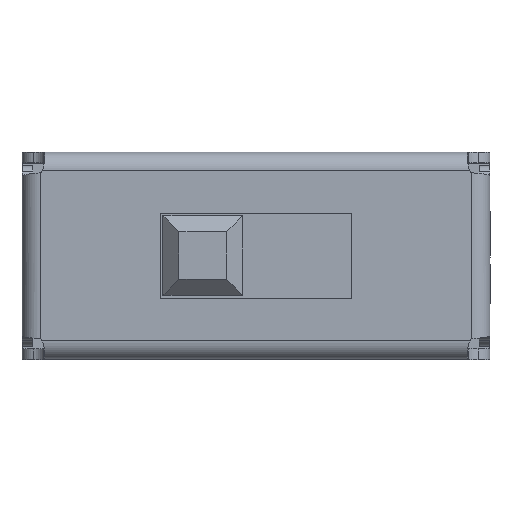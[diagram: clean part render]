
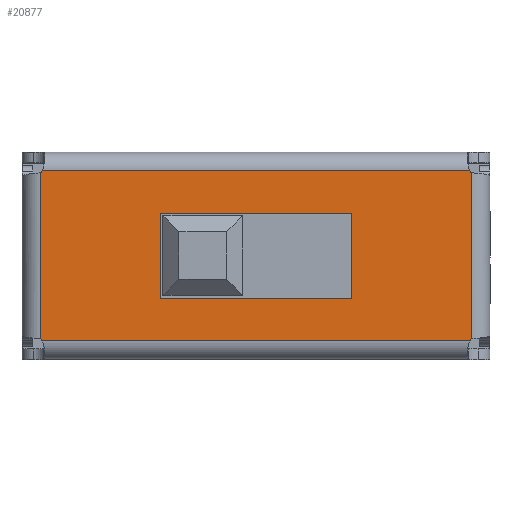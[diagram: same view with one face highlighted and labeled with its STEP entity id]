
A CAD part, top view. The second image highlights one B-rep face of the part: STEP entity #20877.
In plain terms, the highlighted planar face has unit normal (0, 0, 1).
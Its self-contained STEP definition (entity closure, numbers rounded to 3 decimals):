
#177 = DIRECTION ( 'NONE',  ( 0., -1., 0. ) ) ;
#464 = CARTESIAN_POINT ( 'NONE',  ( 4.257, -1.781, 3.5 ) ) ;
#907 = ORIENTED_EDGE ( 'NONE', *, *, #18723, .F. ) ;
#928 = EDGE_CURVE ( 'NONE', #21703, #17480, #18245, .T. ) ;
#1054 = CARTESIAN_POINT ( 'NONE',  ( 4.05, -1.564, 3.5 ) ) ;
#1089 = DIRECTION ( 'NONE',  ( -1., 0., 0. ) ) ;
#1325 = CARTESIAN_POINT ( 'NONE',  ( -4.017, 1.6, 3.5 ) ) ;
#1509 = DIRECTION ( 'NONE',  ( 0., 0., -1. ) ) ;
#1510 = CIRCLE ( 'NONE', #2270, 0.3 ) ;
#1568 = PLANE ( 'NONE',  #4758 ) ;
#1768 = DIRECTION ( 'NONE',  ( 0., 1., 0. ) ) ;
#1792 = CARTESIAN_POINT ( 'NONE',  ( -4.017, -1.6, 3.5 ) ) ;
#2203 = CARTESIAN_POINT ( 'NONE',  ( -4.05, 5.58, 3.5 ) ) ;
#2235 = ORIENTED_EDGE ( 'NONE', *, *, #13999, .F. ) ;
#2266 = ORIENTED_EDGE ( 'NONE', *, *, #16508, .T. ) ;
#2270 = AXIS2_PLACEMENT_3D ( 'NONE', #14169, #12260, #1089 ) ;
#2368 = CARTESIAN_POINT ( 'NONE',  ( -1.8, 1.6, 3.5 ) ) ;
#2623 = LINE ( 'NONE', #11877, #11916 ) ;
#2874 = VECTOR ( 'NONE', #18473, 1000. ) ;
#3005 = EDGE_CURVE ( 'NONE', #17328, #20729, #3747, .T. ) ;
#3075 = ORIENTED_EDGE ( 'NONE', *, *, #3005, .T. ) ;
#3168 = VECTOR ( 'NONE', #9368, 1000. ) ;
#3344 = FACE_BOUND ( 'NONE', #18348, .T. ) ;
#3747 = LINE ( 'NONE', #14575, #20077 ) ;
#3833 = VERTEX_POINT ( 'NONE', #16565 ) ;
#3998 = DIRECTION ( 'NONE',  ( 0., 0., -1. ) ) ;
#4065 = CARTESIAN_POINT ( 'NONE',  ( -1.8, -0.8, 3.5 ) ) ;
#4758 = AXIS2_PLACEMENT_3D ( 'NONE', #13394, #3998, #18678 ) ;
#4908 = VERTEX_POINT ( 'NONE', #11597 ) ;
#5464 = LINE ( 'NONE', #15075, #14635 ) ;
#5538 = VECTOR ( 'NONE', #1768, 1000. ) ;
#5620 = VERTEX_POINT ( 'NONE', #7384 ) ;
#6304 = CIRCLE ( 'NONE', #19437, 0.3 ) ;
#6502 = EDGE_CURVE ( 'NONE', #17304, #17328, #14600, .T. ) ;
#6681 = EDGE_CURVE ( 'NONE', #17480, #4908, #12780, .T. ) ;
#7338 = VECTOR ( 'NONE', #177, 1000. ) ;
#7384 = CARTESIAN_POINT ( 'NONE',  ( 1.8, 0.8, 3.5 ) ) ;
#7615 = DIRECTION ( 'NONE',  ( 0., 0., -1. ) ) ;
#7728 = EDGE_CURVE ( 'NONE', #16697, #17304, #2623, .T. ) ;
#8178 = ORIENTED_EDGE ( 'NONE', *, *, #6681, .F. ) ;
#8513 = ORIENTED_EDGE ( 'NONE', *, *, #928, .F. ) ;
#8568 = CARTESIAN_POINT ( 'NONE',  ( -4.257, 1.781, 3.5 ) ) ;
#9072 = CIRCLE ( 'NONE', #15113, 0.3 ) ;
#9210 = CARTESIAN_POINT ( 'NONE',  ( 4.05, 1.564, 3.5 ) ) ;
#9368 = DIRECTION ( 'NONE',  ( 0., 1., 0. ) ) ;
#9410 = CARTESIAN_POINT ( 'NONE',  ( -1.8, 0.8, 3.5 ) ) ;
#10502 = FACE_OUTER_BOUND ( 'NONE', #18213, .T. ) ;
#10691 = LINE ( 'NONE', #10822, #5538 ) ;
#10822 = CARTESIAN_POINT ( 'NONE',  ( 1.8, 0.8, 3.5 ) ) ;
#11597 = CARTESIAN_POINT ( 'NONE',  ( 1.8, -0.8, 3.5 ) ) ;
#11621 = ORIENTED_EDGE ( 'NONE', *, *, #20058, .F. ) ;
#11697 = VERTEX_POINT ( 'NONE', #11900 ) ;
#11877 = CARTESIAN_POINT ( 'NONE',  ( -1.8, -1.6, 3.5 ) ) ;
#11900 = CARTESIAN_POINT ( 'NONE',  ( 4.017, 1.6, 3.5 ) ) ;
#11916 = VECTOR ( 'NONE', #19043, 1000. ) ;
#12260 = DIRECTION ( 'NONE',  ( 0., 0., -1. ) ) ;
#12522 = DIRECTION ( 'NONE',  ( 0., 0., -1. ) ) ;
#12780 = LINE ( 'NONE', #4065, #13089 ) ;
#13065 = VERTEX_POINT ( 'NONE', #14142 ) ;
#13089 = VECTOR ( 'NONE', #14567, 1000. ) ;
#13196 = LINE ( 'NONE', #2368, #2874 ) ;
#13284 = DIRECTION ( 'NONE',  ( -1., 0., 0. ) ) ;
#13394 = CARTESIAN_POINT ( 'NONE',  ( -1.8, 5.58, 3.5 ) ) ;
#13467 = EDGE_CURVE ( 'NONE', #21365, #13065, #6304, .T. ) ;
#13547 = CARTESIAN_POINT ( 'NONE',  ( 4.017, -1.6, 3.5 ) ) ;
#13992 = DIRECTION ( 'NONE',  ( 1., 0., 0. ) ) ;
#13999 = EDGE_CURVE ( 'NONE', #5620, #21703, #5464, .T. ) ;
#14142 = CARTESIAN_POINT ( 'NONE',  ( -4.05, 1.564, 3.5 ) ) ;
#14169 = CARTESIAN_POINT ( 'NONE',  ( 4.257, 1.781, 3.5 ) ) ;
#14493 = CARTESIAN_POINT ( 'NONE',  ( -1.8, -0.8, 3.5 ) ) ;
#14567 = DIRECTION ( 'NONE',  ( 1., 0., 0. ) ) ;
#14575 = CARTESIAN_POINT ( 'NONE',  ( 4.05, 5.58, 3.5 ) ) ;
#14600 = CIRCLE ( 'NONE', #19040, 0.3 ) ;
#14635 = VECTOR ( 'NONE', #13284, 1000. ) ;
#15048 = ORIENTED_EDGE ( 'NONE', *, *, #7728, .T. ) ;
#15075 = CARTESIAN_POINT ( 'NONE',  ( -1.8, 0.8, 3.5 ) ) ;
#15113 = AXIS2_PLACEMENT_3D ( 'NONE', #19661, #12522, #16201 ) ;
#15449 = ORIENTED_EDGE ( 'NONE', *, *, #6502, .T. ) ;
#16201 = DIRECTION ( 'NONE',  ( -1., 0., 0. ) ) ;
#16508 = EDGE_CURVE ( 'NONE', #3833, #16697, #9072, .T. ) ;
#16565 = CARTESIAN_POINT ( 'NONE',  ( -4.05, -1.564, 3.5 ) ) ;
#16697 = VERTEX_POINT ( 'NONE', #1792 ) ;
#17262 = DIRECTION ( 'NONE',  ( 1., 0., 0. ) ) ;
#17304 = VERTEX_POINT ( 'NONE', #13547 ) ;
#17328 = VERTEX_POINT ( 'NONE', #1054 ) ;
#17480 = VERTEX_POINT ( 'NONE', #14493 ) ;
#17796 = CARTESIAN_POINT ( 'NONE',  ( -1.8, 0.8, 3.5 ) ) ;
#18176 = DIRECTION ( 'NONE',  ( 0., 1., 0. ) ) ;
#18213 = EDGE_LOOP ( 'NONE', ( #907, #2266, #15048, #15449, #3075, #21320, #11621, #21928 ) ) ;
#18245 = LINE ( 'NONE', #17796, #7338 ) ;
#18300 = LINE ( 'NONE', #2203, #3168 ) ;
#18348 = EDGE_LOOP ( 'NONE', ( #2235, #21379, #8178, #8513 ) ) ;
#18473 = DIRECTION ( 'NONE',  ( 1., 0., 0. ) ) ;
#18678 = DIRECTION ( 'NONE',  ( -1., 0., 0. ) ) ;
#18723 = EDGE_CURVE ( 'NONE', #3833, #13065, #18300, .T. ) ;
#19040 = AXIS2_PLACEMENT_3D ( 'NONE', #464, #7615, #17262 ) ;
#19043 = DIRECTION ( 'NONE',  ( 1., 0., 0. ) ) ;
#19437 = AXIS2_PLACEMENT_3D ( 'NONE', #8568, #1509, #13992 ) ;
#19661 = CARTESIAN_POINT ( 'NONE',  ( -4.257, -1.781, 3.5 ) ) ;
#19812 = EDGE_CURVE ( 'NONE', #20729, #11697, #1510, .T. ) ;
#20058 = EDGE_CURVE ( 'NONE', #21365, #11697, #13196, .T. ) ;
#20077 = VECTOR ( 'NONE', #18176, 1000. ) ;
#20227 = EDGE_CURVE ( 'NONE', #4908, #5620, #10691, .T. ) ;
#20729 = VERTEX_POINT ( 'NONE', #9210 ) ;
#20877 = ADVANCED_FACE ( 'NONE', ( #3344, #10502 ), #1568, .F. ) ;
#21320 = ORIENTED_EDGE ( 'NONE', *, *, #19812, .T. ) ;
#21365 = VERTEX_POINT ( 'NONE', #1325 ) ;
#21379 = ORIENTED_EDGE ( 'NONE', *, *, #20227, .F. ) ;
#21703 = VERTEX_POINT ( 'NONE', #9410 ) ;
#21928 = ORIENTED_EDGE ( 'NONE', *, *, #13467, .T. ) ;
